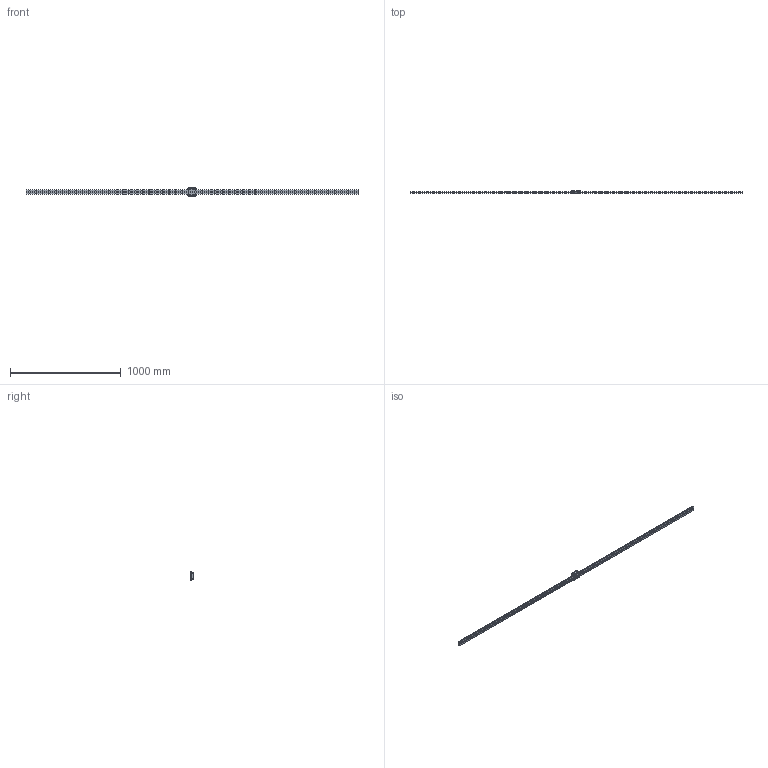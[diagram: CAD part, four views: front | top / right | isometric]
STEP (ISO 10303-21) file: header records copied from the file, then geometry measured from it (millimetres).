
FILE_DESCRIPTION(/* description */ ('STEP AP214'),/* implementation_level */ '2;1');
FILE_NAME(/* name */ 'SHW27CA1SS-3000L_G30_0_Without_grease_nipple_1463-6_0_0_01',/* time_stamp */ '2024-02-12T10:05:15+01:00',/* author */ ('License CC BY-ND 4.0'),/* organization */ ('CADENAS'),/* preprocessor_version */ 'ST-DEVELOPER v19.3',/* originating_system */ 'PARTsolutions',/* authorisation */ ' ');
FILE_SCHEMA (('AUTOMOTIVE_DESIGN {1 0 10303 214 3 1 1}'));
Length unit declared in the file: millimetre
Products named in the file (4): SHW27CA1SS-3000L_G30_0_Without_grease_nipple_1463-6_0_0_01; SHW27CA300030 Track; SHW27CASS1 Slide12-50; -SHW_grease_nipple_joint
Assembly tree (3 placements, depth 2):
  SHW27CA1SS-3000L_G30_0_Without_grease_nipple_1463-6_0_0_01
    SHW27CA300030 Track
    SHW27CASS1 Slide12-50
    -SHW_grease_nipple_joint
Bounding box: 3000 x 27 x 80 mm (x, y, z)
Volume: 1799413.8 mm3; surface area: 395706.8 mm2
Topology: 2 solids, 2 shells, 470 faces, 1083 edges, 718 vertices
Faces by surface type: cylinder 236, plane 218, cone 16
Full cylindrical faces by diameter (mm): 4.5 x100, 4.917 x2, 5.3 x6, 7.5 x100
Entity records: 12804 total; most frequent: DIRECTION 2286, CARTESIAN_POINT 2055, ORIENTED_EDGE 1696, FACE_BOUND 1008, EDGE_LOOP 1006, AXIS2_PLACEMENT_3D 972, EDGE_CURVE 848, VERTEX_POINT 708
